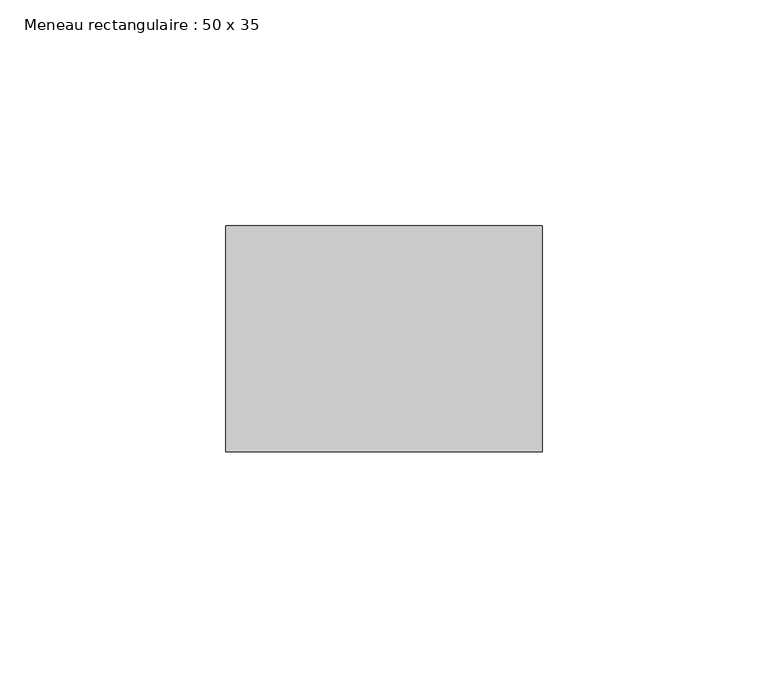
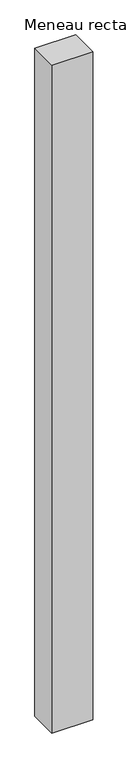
"""IFC4 building model written with IfcOpenShell, lengths in millimetres: member geometry, Meneau rectangulaire : 50 x 35."""

from ifc_helpers import new_model, si_unit, frame, origin, place, context, project, spatial, polyline, outline, extrude, source, transform, mapped, element, save


def meneau_rectangulaire_50_x_35_b51f5df6(model_context):
    return source(origin(), model_context, "Body", "SweptSolid", [
        extrude(outline(polyline([(0.0, 0.0), (0.0, -50.0), (-70.0, -50.0), (-70.0, 0.0), (0.0, 0.0)])), frame((0.0, 0.0, -1210.0), z_axis=(0.0, 0.0, 1.0), x_axis=(1.0, 0.0, 0.0)), (0.0, 0.0, 1.0), 1210.0),
    ])


if __name__ == "__main__":
    model = new_model("IFC4")
    model_context = context("Model", 3, world=origin())
    ifc_project = project(units=[si_unit("LENGTHUNIT", "METRE", prefix="MILLI")], contexts=[model_context])
    site = spatial("IfcSite", under=ifc_project)
    building = spatial("IfcBuilding", under=site)
    placement = place(None, origin())
    meneau_rectangulaire_50_x_35_shape = meneau_rectangulaire_50_x_35_b51f5df6(model_context)
    element("IfcMember", 1, ObjectType="Meneau rectangulaire : 50 x 35", at=placement, inside=building, context=model_context, shape_type="MappedRepresentation", body=[
        mapped(meneau_rectangulaire_50_x_35_shape, transform((0.0, 0.0, 0.0), x_axis=(1.0, 0.0, 0.0), y_axis=(0.0, 1.0, 0.0), z_axis=(0.0, 0.0, 1.0))),
    ])
    save(model, "model.ifc")
